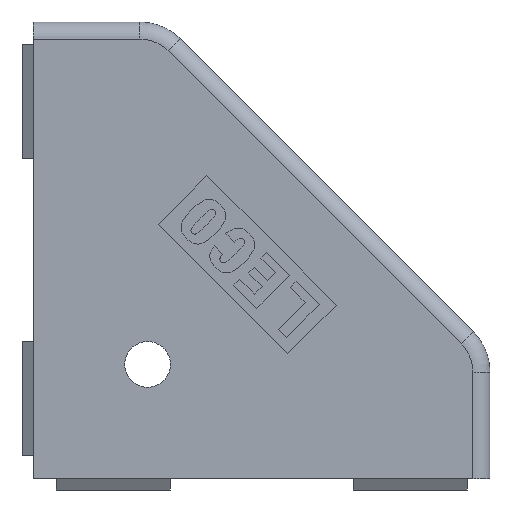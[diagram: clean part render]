
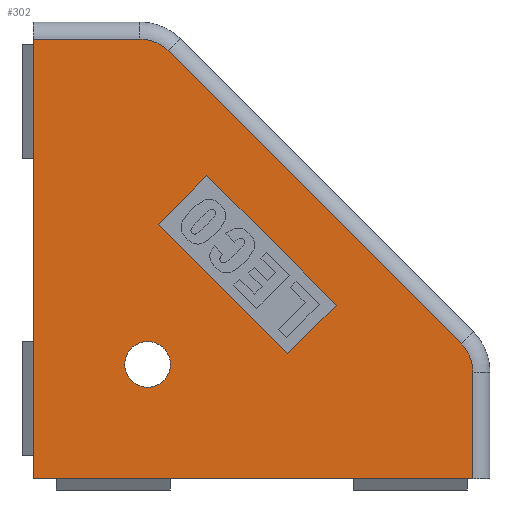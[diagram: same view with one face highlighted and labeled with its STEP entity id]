
A CAD part, front view. The second image highlights one B-rep face of the part: STEP entity #302.
In plain terms, the highlighted planar face has unit normal (0, -1, 0).
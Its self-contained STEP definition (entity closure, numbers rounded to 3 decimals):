
#302=ADVANCED_FACE('',(#744,#745,#746),#747,.F.);
#744=FACE_BOUND('',#1337,.T.);
#745=FACE_BOUND('',#1338,.T.);
#746=FACE_OUTER_BOUND('',#1339,.T.);
#747=PLANE('',#1340);
#1337=EDGE_LOOP('',(#2209));
#1338=EDGE_LOOP('',(#2210,#2211,#2212,#2213));
#1339=EDGE_LOOP('',(#2214,#2215,#2216,#2217,#2218,#2219,#2220));
#1340=AXIS2_PLACEMENT_3D('',#2221,#2222,#2223);
#2209=ORIENTED_EDGE('',*,*,#3745,.F.);
#2210=ORIENTED_EDGE('',*,*,#3596,.F.);
#2211=ORIENTED_EDGE('',*,*,#3517,.F.);
#2212=ORIENTED_EDGE('',*,*,#3746,.F.);
#2213=ORIENTED_EDGE('',*,*,#3502,.F.);
#2214=ORIENTED_EDGE('',*,*,#3528,.F.);
#2215=ORIENTED_EDGE('',*,*,#3747,.F.);
#2216=ORIENTED_EDGE('',*,*,#3748,.F.);
#2217=ORIENTED_EDGE('',*,*,#3749,.F.);
#2218=ORIENTED_EDGE('',*,*,#3750,.T.);
#2219=ORIENTED_EDGE('',*,*,#3751,.T.);
#2220=ORIENTED_EDGE('',*,*,#3752,.F.);
#2221=CARTESIAN_POINT('',(0.,6.,0.));
#2222=DIRECTION('',(-0.0,1.0,0.0));
#2223=DIRECTION('',(1.0,0.0,0.0));
#3502=EDGE_CURVE('',#4184,#4185,#4186,.T.);
#3517=EDGE_CURVE('',#4211,#4212,#4213,.T.);
#3528=EDGE_CURVE('',#4229,#4232,#4233,.F.);
#3596=EDGE_CURVE('',#4212,#4184,#4352,.T.);
#3745=EDGE_CURVE('',#4599,#4599,#4600,.T.);
#3746=EDGE_CURVE('',#4185,#4211,#4601,.T.);
#3747=EDGE_CURVE('',#4602,#4229,#4603,.F.);
#3748=EDGE_CURVE('',#4604,#4602,#4605,.F.);
#3749=EDGE_CURVE('',#4606,#4604,#4607,.F.);
#3750=EDGE_CURVE('',#4606,#4608,#4609,.T.);
#3751=EDGE_CURVE('',#4608,#4610,#4611,.T.);
#3752=EDGE_CURVE('',#4232,#4610,#4612,.F.);
#4184=VERTEX_POINT('',#5175);
#4185=VERTEX_POINT('',#5176);
#4186=LINE('',#5177,#5178);
#4211=VERTEX_POINT('',#5214);
#4212=VERTEX_POINT('',#5215);
#4213=LINE('',#5216,#5217);
#4229=VERTEX_POINT('',#5238);
#4232=VERTEX_POINT('',#5241);
#4233=CIRCLE('',#5242,3.5);
#4352=LINE('',#5386,#5387);
#4599=VERTEX_POINT('',#5703);
#4600=CIRCLE('',#5704,2.0);
#4601=LINE('',#5705,#5706);
#4602=VERTEX_POINT('',#5707);
#4603=LINE('',#5708,#5709);
#4604=VERTEX_POINT('',#5710);
#4605=CIRCLE('',#5711,3.5);
#4606=VERTEX_POINT('',#5712);
#4607=LINE('',#5713,#5714);
#4608=VERTEX_POINT('',#5715);
#4609=LINE('',#5716,#5717);
#4610=VERTEX_POINT('',#5718);
#4611=LINE('',#5719,#5720);
#4612=LINE('',#5721,#5722);
#5175=CARTESIAN_POINT('',(22.275,6.,10.961));
#5176=CARTESIAN_POINT('',(26.518,6.,15.204));
#5177=CARTESIAN_POINT('',(22.275,6.,10.961));
#5178=VECTOR('',#6446,1.0);
#5214=CARTESIAN_POINT('',(15.204,6.,26.518));
#5215=CARTESIAN_POINT('',(10.961,6.,22.275));
#5216=CARTESIAN_POINT('',(15.204,6.,26.518));
#5217=VECTOR('',#6458,1.0);
#5238=CARTESIAN_POINT('',(37.475,6.,11.802));
#5241=CARTESIAN_POINT('',(38.5,6.,9.327));
#5242=AXIS2_PLACEMENT_3D('',#6473,#6474,#6475);
#5386=CARTESIAN_POINT('',(10.961,6.,22.275));
#5387=VECTOR('',#6591,1.0);
#5703=CARTESIAN_POINT('',(12.0,6.,10.0));
#5704=AXIS2_PLACEMENT_3D('',#6820,#6821,#6822);
#5705=CARTESIAN_POINT('',(26.518,6.,15.204));
#5706=VECTOR('',#6823,1.0);
#5707=CARTESIAN_POINT('',(11.802,6.,37.475));
#5708=CARTESIAN_POINT('',(37.475,6.,11.802));
#5709=VECTOR('',#6824,1.0);
#5710=CARTESIAN_POINT('',(9.327,6.,38.5));
#5711=AXIS2_PLACEMENT_3D('',#6825,#6826,#6827);
#5712=CARTESIAN_POINT('',(0.,6.,38.5));
#5713=CARTESIAN_POINT('',(0.,6.,38.5));
#5714=VECTOR('',#6828,1.0);
#5715=CARTESIAN_POINT('',(0.,6.,0.));
#5716=CARTESIAN_POINT('',(0.,6.,40.0));
#5717=VECTOR('',#6829,1.0);
#5718=CARTESIAN_POINT('',(38.5,6.,0.));
#5719=CARTESIAN_POINT('',(0.,6.,0.));
#5720=VECTOR('',#6830,1.0);
#5721=CARTESIAN_POINT('',(38.5,6.,0.));
#5722=VECTOR('',#6831,1.0);
#6446=DIRECTION('',(0.707,0.0,0.707));
#6458=DIRECTION('',(-0.707,0.0,-0.707));
#6473=CARTESIAN_POINT('',(35.0,6.,9.327));
#6474=DIRECTION('',(0.0,-1.0,0.0));
#6475=DIRECTION('',(1.0,0.0,0.0));
#6591=DIRECTION('',(0.707,0.0,-0.707));
#6820=CARTESIAN_POINT('',(10.0,6.,10.0));
#6821=DIRECTION('',(0.0,-1.0,0.0));
#6822=DIRECTION('',(1.0,0.0,0.0));
#6823=DIRECTION('',(-0.707,0.0,0.707));
#6824=DIRECTION('',(-0.707,0.0,0.707));
#6825=CARTESIAN_POINT('',(9.327,6.,35.0));
#6826=DIRECTION('',(0.0,-1.0,0.0));
#6827=DIRECTION('',(1.0,0.0,0.0));
#6828=DIRECTION('',(-1.0,0.0,0.0));
#6829=DIRECTION('',(0.0,0.0,-1.0));
#6830=DIRECTION('',(1.0,0.0,0.0));
#6831=DIRECTION('',(0.0,0.0,1.0));
